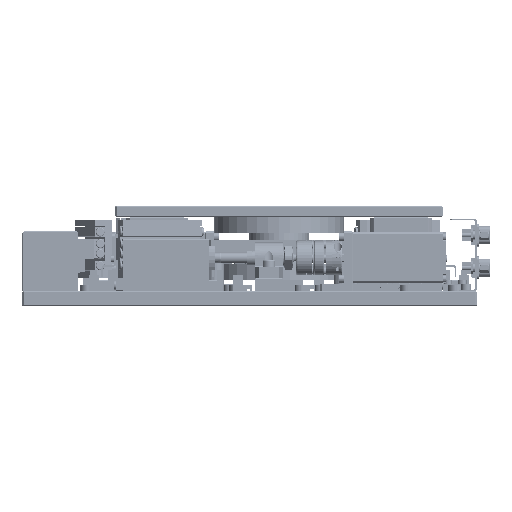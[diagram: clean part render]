
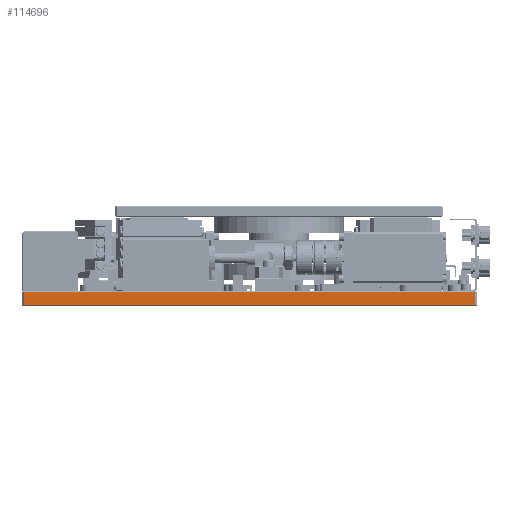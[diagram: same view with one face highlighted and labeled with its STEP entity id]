
A CAD part, front view. The second image highlights one B-rep face of the part: STEP entity #114696.
In plain terms, the highlighted planar face has unit normal (0, -1, 0).
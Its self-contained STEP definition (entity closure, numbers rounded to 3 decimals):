
#6829 = DIRECTION ( 'NONE',  ( 0., 0., 1. ) ) ;
#10578 = DIRECTION ( 'NONE',  ( 1., 0., 0. ) ) ;
#12108 = CARTESIAN_POINT ( 'NONE',  ( 104.872, -155.059, 246.5 ) ) ;
#14126 = VERTEX_POINT ( 'NONE', #81752 ) ;
#19142 = LINE ( 'NONE', #51902, #76428 ) ;
#19892 = DIRECTION ( 'NONE',  ( 0., 0., -1. ) ) ;
#21008 = LINE ( 'NONE', #90190, #64526 ) ;
#26114 = EDGE_CURVE ( 'NONE', #14126, #129198, #107241, .T. ) ;
#33897 = VECTOR ( 'NONE', #6829, 1000. ) ;
#36141 = DIRECTION ( 'NONE',  ( 0., 1., 0. ) ) ;
#50132 = VECTOR ( 'NONE', #81267, 1000. ) ;
#50470 = CARTESIAN_POINT ( 'NONE',  ( -143.128, -155.059, 253.5 ) ) ;
#50769 = CARTESIAN_POINT ( 'NONE',  ( 104.872, -155.059, 254. ) ) ;
#51902 = CARTESIAN_POINT ( 'NONE',  ( -143.128, -155.059, 254. ) ) ;
#54675 = EDGE_CURVE ( 'NONE', #129198, #141638, #19142, .T. ) ;
#62163 = VERTEX_POINT ( 'NONE', #12108 ) ;
#62723 = ORIENTED_EDGE ( 'NONE', *, *, #133537, .T. ) ;
#63531 = EDGE_CURVE ( 'NONE', #62163, #14126, #85709, .T. ) ;
#64526 = VECTOR ( 'NONE', #10578, 1000. ) ;
#68893 = CARTESIAN_POINT ( 'NONE',  ( 105.872, -155.059, 254. ) ) ;
#69630 = PLANE ( 'NONE',  #119314 ) ;
#71121 = CARTESIAN_POINT ( 'NONE',  ( -143.128, -155.059, 246.5 ) ) ;
#71434 = ORIENTED_EDGE ( 'NONE', *, *, #63531, .T. ) ;
#76428 = VECTOR ( 'NONE', #19892, 1000. ) ;
#80799 = FACE_OUTER_BOUND ( 'NONE', #141112, .T. ) ;
#81267 = DIRECTION ( 'NONE',  ( -1., 0., 0. ) ) ;
#81521 = ORIENTED_EDGE ( 'NONE', *, *, #26114, .T. ) ;
#81752 = CARTESIAN_POINT ( 'NONE',  ( 104.872, -155.059, 253.5 ) ) ;
#84171 = CARTESIAN_POINT ( 'NONE',  ( -143.128, -155.059, 253.5 ) ) ;
#85709 = LINE ( 'NONE', #50769, #33897 ) ;
#90190 = CARTESIAN_POINT ( 'NONE',  ( 105.872, -155.059, 246.5 ) ) ;
#106361 = ORIENTED_EDGE ( 'NONE', *, *, #54675, .T. ) ;
#107241 = LINE ( 'NONE', #84171, #50132 ) ;
#114696 = ADVANCED_FACE ( 'NONE', ( #80799 ), #69630, .F. ) ;
#119314 = AXIS2_PLACEMENT_3D ( 'NONE', #68893, #36141, #138823 ) ;
#129198 = VERTEX_POINT ( 'NONE', #50470 ) ;
#133537 = EDGE_CURVE ( 'NONE', #141638, #62163, #21008, .T. ) ;
#138823 = DIRECTION ( 'NONE',  ( -1., 0., 0. ) ) ;
#141112 = EDGE_LOOP ( 'NONE', ( #106361, #62723, #71434, #81521 ) ) ;
#141638 = VERTEX_POINT ( 'NONE', #71121 ) ;
